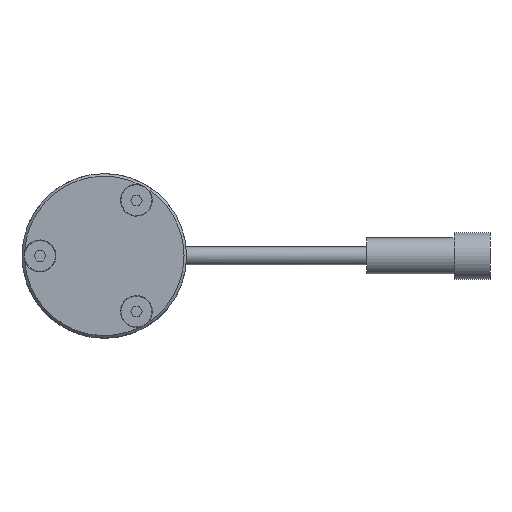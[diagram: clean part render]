
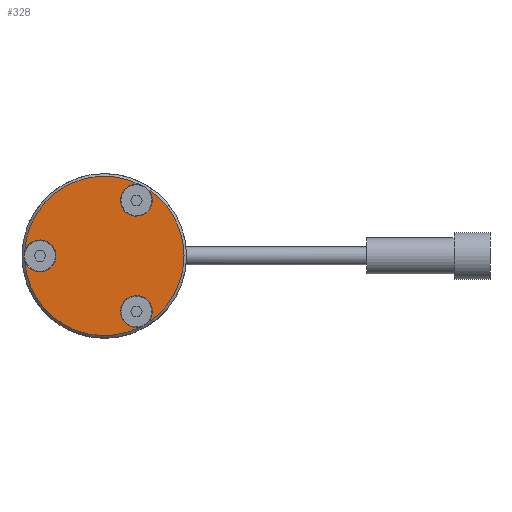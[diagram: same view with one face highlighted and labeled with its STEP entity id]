
A CAD part, top view. The second image highlights one B-rep face of the part: STEP entity #328.
In plain terms, the highlighted planar face has unit normal (0, 0, 1).
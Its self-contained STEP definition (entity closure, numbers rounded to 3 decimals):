
#328=ADVANCED_FACE('',(#775),#776,.T.);
#775=FACE_OUTER_BOUND('',#1331,.T.);
#776=PLANE('',#1332);
#1331=EDGE_LOOP('',(#2137,#2138,#2139,#2140,#2141,#2142));
#1332=AXIS2_PLACEMENT_3D('',#2143,#2144,#2145);
#2137=ORIENTED_EDGE('',*,*,#2778,.T.);
#2138=ORIENTED_EDGE('',*,*,#2888,.F.);
#2139=ORIENTED_EDGE('',*,*,#2879,.T.);
#2140=ORIENTED_EDGE('',*,*,#2887,.F.);
#2141=ORIENTED_EDGE('',*,*,#2882,.T.);
#2142=ORIENTED_EDGE('',*,*,#2886,.F.);
#2143=CARTESIAN_POINT('',(-15.5,0.0,25.));
#2144=DIRECTION('',(0.0,0.,1.0));
#2145=DIRECTION('',(0.0,-1.0,0.));
#2778=EDGE_CURVE('',#3207,#3208,#3210,.T.);
#2879=EDGE_CURVE('',#3352,#3353,#3355,.T.);
#2882=EDGE_CURVE('',#3357,#3358,#3360,.T.);
#2886=EDGE_CURVE('',#3207,#3358,#3365,.T.);
#2887=EDGE_CURVE('',#3357,#3353,#3366,.T.);
#2888=EDGE_CURVE('',#3352,#3208,#3367,.T.);
#3207=VERTEX_POINT('',#3837);
#3208=VERTEX_POINT('',#3838);
#3210=CIRCLE('',#3845,3.1);
#3352=VERTEX_POINT('',#4017);
#3353=VERTEX_POINT('',#4018);
#3355=CIRCLE('',#4025,3.1);
#3357=VERTEX_POINT('',#4027);
#3358=VERTEX_POINT('',#4028);
#3360=CIRCLE('',#4035,3.1);
#3365=CIRCLE('',#4040,15.5);
#3366=CIRCLE('',#4041,15.5);
#3367=CIRCLE('',#4042,15.5);
#3837=CARTESIAN_POINT('',(-15.476,0.869,25.));
#3838=CARTESIAN_POINT('',(-15.476,-0.869,25.));
#3845=AXIS2_PLACEMENT_3D('',#4716,#4717,#4718);
#4017=CARTESIAN_POINT('',(6.985,-13.837,25.));
#4018=CARTESIAN_POINT('',(8.491,-12.968,25.));
#4025=AXIS2_PLACEMENT_3D('',#4848,#4849,#4850);
#4027=CARTESIAN_POINT('',(8.491,12.968,25.));
#4028=CARTESIAN_POINT('',(6.985,13.837,25.));
#4035=AXIS2_PLACEMENT_3D('',#4851,#4852,#4853);
#4040=AXIS2_PLACEMENT_3D('',#4857,#4858,#4859);
#4041=AXIS2_PLACEMENT_3D('',#4860,#4861,#4862);
#4042=AXIS2_PLACEMENT_3D('',#4863,#4864,#4865);
#4716=CARTESIAN_POINT('',(-12.5,0.,25.));
#4717=DIRECTION('',(0.0,0.0,-1.0));
#4718=DIRECTION('',(1.0,0.0,0.0));
#4848=CARTESIAN_POINT('',(6.25,-10.825,25.));
#4849=DIRECTION('',(0.0,0.0,-1.0));
#4850=DIRECTION('',(1.0,0.0,0.0));
#4851=CARTESIAN_POINT('',(6.25,10.825,25.));
#4852=DIRECTION('',(0.0,0.0,-1.0));
#4853=DIRECTION('',(1.0,0.0,0.0));
#4857=CARTESIAN_POINT('',(0.0,0.0,25.));
#4858=DIRECTION('',(-0.0,0.,-1.0));
#4859=DIRECTION('',(0.0,1.0,0.));
#4860=CARTESIAN_POINT('',(0.0,0.0,25.));
#4861=DIRECTION('',(-0.0,0.,-1.0));
#4862=DIRECTION('',(0.0,1.0,0.));
#4863=CARTESIAN_POINT('',(0.0,0.0,25.));
#4864=DIRECTION('',(-0.0,0.,-1.0));
#4865=DIRECTION('',(0.0,1.0,0.));
